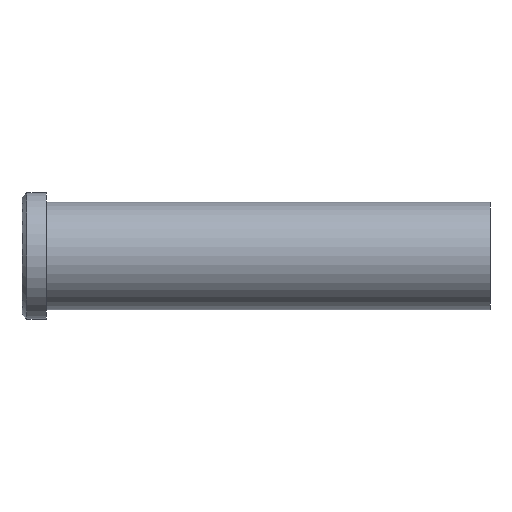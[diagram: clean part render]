
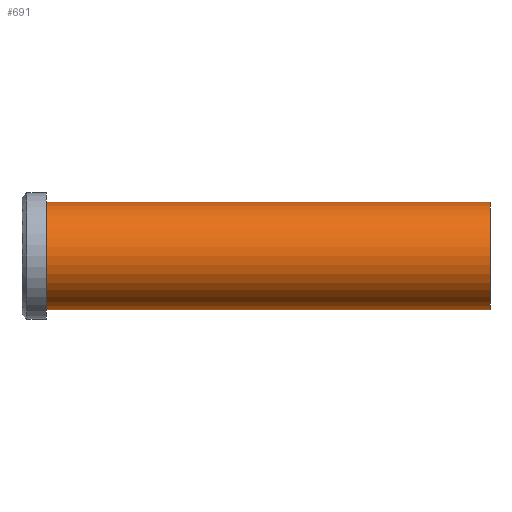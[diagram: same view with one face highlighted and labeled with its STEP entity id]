
A CAD part, front view. The second image highlights one B-rep face of the part: STEP entity #691.
In plain terms, the highlighted cylindrical face has radius 11 mm (diameter 22 mm), a partial arc.
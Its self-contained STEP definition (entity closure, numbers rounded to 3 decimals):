
#501=CARTESIAN_POINT('Vertex',(0.,0.,-11.)) ;
#506=CARTESIAN_POINT('Axis2P3D Location',(0.,0.,0.)) ;
#510=CARTESIAN_POINT('Vertex',(0.,-11.,0.)) ;
#513=CARTESIAN_POINT('Axis2P3D Location',(0.,0.,0.)) ;
#517=CARTESIAN_POINT('Vertex',(0.,0.,11.)) ;
#631=CARTESIAN_POINT('Line Origine',(91.,0.,11.)) ;
#635=CARTESIAN_POINT('Vertex',(91.,0.,11.)) ;
#649=CARTESIAN_POINT('Vertex',(91.,0.,-11.)) ;
#652=CARTESIAN_POINT('Line Origine',(91.,0.,-11.)) ;
#666=CARTESIAN_POINT('Axis2P3D Location',(91.,0.,0.)) ;
#671=CARTESIAN_POINT('Axis2P3D Location',(91.,0.,0.)) ;
#675=CARTESIAN_POINT('Vertex',(91.,-11.,0.)) ;
#678=CARTESIAN_POINT('Axis2P3D Location',(91.,0.,0.)) ;
#507=DIRECTION('Axis2P3D Direction',(1.,0.,-0.)) ;
#514=DIRECTION('Axis2P3D Direction',(1.,0.,-0.)) ;
#632=DIRECTION('Vector Direction',(-1.,0.,0.)) ;
#653=DIRECTION('Vector Direction',(-1.,0.,0.)) ;
#667=DIRECTION('Axis2P3D Direction',(-1.,-0.,-0.)) ;
#668=DIRECTION('Axis2P3D XDirection',(0.,0.,-1.)) ;
#672=DIRECTION('Axis2P3D Direction',(-1.,-0.,-0.)) ;
#679=DIRECTION('Axis2P3D Direction',(-1.,-0.,-0.)) ;
#508=AXIS2_PLACEMENT_3D('Circle Axis2P3D',#506,#507,$) ;
#515=AXIS2_PLACEMENT_3D('Circle Axis2P3D',#513,#514,$) ;
#669=AXIS2_PLACEMENT_3D('Cylinder Axis2P3D',#666,#667,#668) ;
#673=AXIS2_PLACEMENT_3D('Circle Axis2P3D',#671,#672,$) ;
#680=AXIS2_PLACEMENT_3D('Circle Axis2P3D',#678,#679,$) ;
#684=ORIENTED_EDGE('',*,*,#656,.T.) ;
#685=ORIENTED_EDGE('',*,*,#677,.F.) ;
#686=ORIENTED_EDGE('',*,*,#682,.F.) ;
#687=ORIENTED_EDGE('',*,*,#637,.T.) ;
#688=ORIENTED_EDGE('',*,*,#519,.T.) ;
#689=ORIENTED_EDGE('',*,*,#512,.T.) ;
#633=VECTOR('Line Direction',#632,1.) ;
#654=VECTOR('Line Direction',#653,1.) ;
#691=ADVANCED_FACE('353-16X96',(#690),#670,.T.) ;
#509=CIRCLE('generated circle',#508,11.) ;
#516=CIRCLE('generated circle',#515,11.) ;
#674=CIRCLE('generated circle',#673,11.) ;
#681=CIRCLE('generated circle',#680,11.) ;
#670=CYLINDRICAL_SURFACE('generated cylinder',#669,11.) ;
#512=EDGE_CURVE('',#511,#502,#509,.T.) ;
#519=EDGE_CURVE('',#518,#511,#516,.T.) ;
#637=EDGE_CURVE('',#636,#518,#634,.T.) ;
#656=EDGE_CURVE('',#502,#650,#655,.F.) ;
#677=EDGE_CURVE('',#676,#650,#674,.F.) ;
#682=EDGE_CURVE('',#636,#676,#681,.F.) ;
#683=EDGE_LOOP('',(#684,#685,#686,#687,#688,#689)) ;
#690=FACE_OUTER_BOUND('',#683,.T.) ;
#634=LINE('Line',#631,#633) ;
#655=LINE('Line',#652,#654) ;
#502=VERTEX_POINT('',#501) ;
#511=VERTEX_POINT('',#510) ;
#518=VERTEX_POINT('',#517) ;
#636=VERTEX_POINT('',#635) ;
#650=VERTEX_POINT('',#649) ;
#676=VERTEX_POINT('',#675) ;
